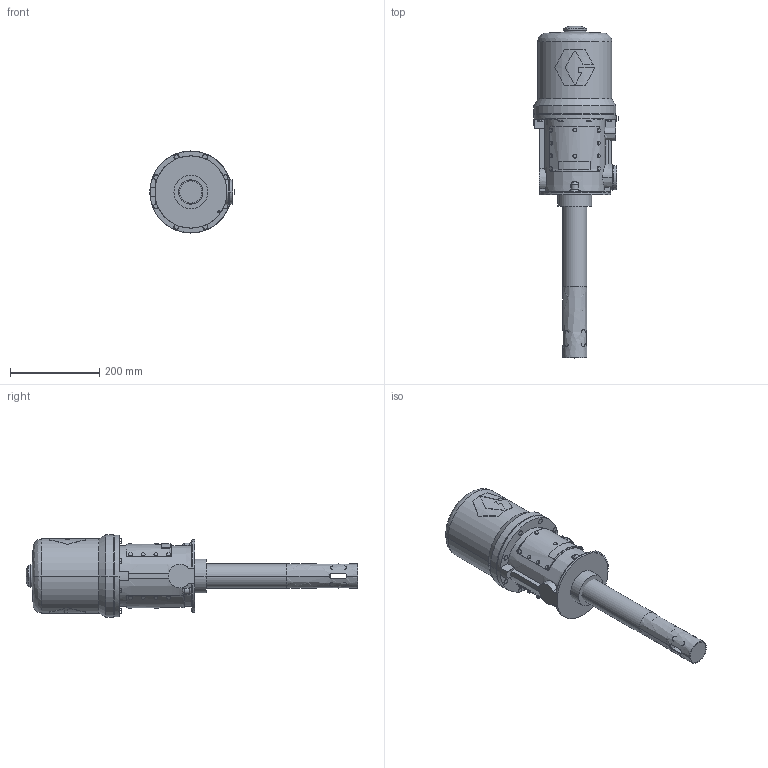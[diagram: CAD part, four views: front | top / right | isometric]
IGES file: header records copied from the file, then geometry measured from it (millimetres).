
Start section:  PTC IGES file: 965124-en-p.igs
Global section: file name: 965124-en-p.igs; native system: Creo Parametric by PTC Inc.; preprocessor: 2021072; author: qtmwp1; organization: Unknown; date: 20240221.094745; units: inch
Bounding box: 189.36 x 744.98 x 184.15 mm (x, y, z)
Surface area: 427677.7 mm2 (no closed solid volume)
Topology: 0 solids, 0 shells, 337 faces, 1545 edges, 1545 vertices
Faces by surface type: revolution 175, bspline 162
